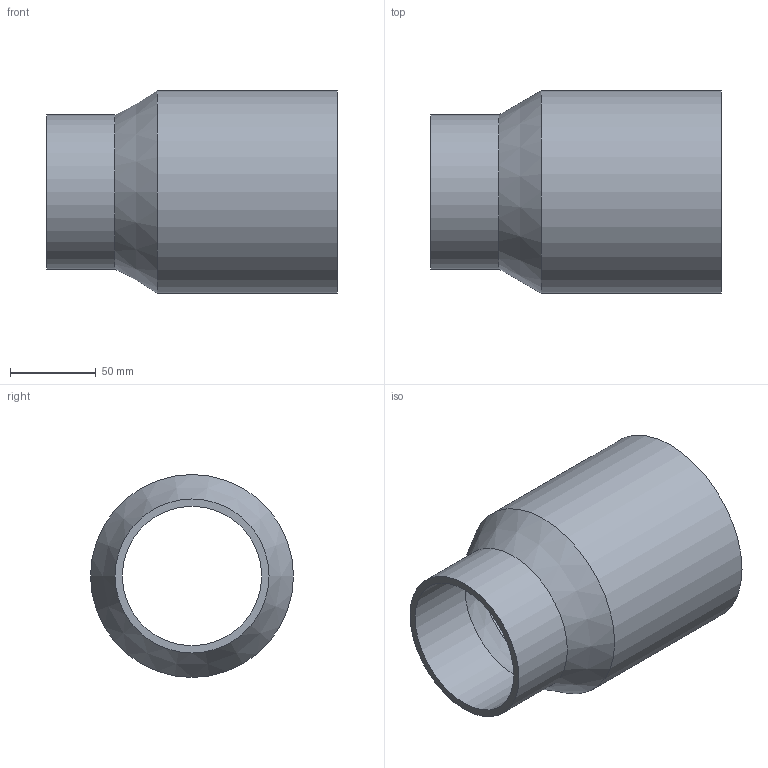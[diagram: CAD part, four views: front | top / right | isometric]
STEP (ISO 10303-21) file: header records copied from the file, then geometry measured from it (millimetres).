
FILE_DESCRIPTION(/* description */ (''),/* implementation_level */ '2;1');
FILE_NAME(/* name */ 'Z:\Geberit\Export\NewStep\366550.stp',/* time_stamp */ '2014-04-02T07:54:15+02:00',/* author */ ('nelson'),/* organization */ (''),/* preprocessor_version */ 'ST-DEVELOPER v15.2',/* originating_system */ 'Autodesk Inventor 2014',/* authorisation */ '');
FILE_SCHEMA (('AUTOMOTIVE_DESIGN { 1 0 10303 214 3 1 1 }'));
Length unit declared in the file: millimetre
Products named in the file (1): 366550
Bounding box: 170 x 118.6 x 118.6 mm (x, y, z)
Volume: 247205.2 mm3; surface area: 117680.9 mm2
Topology: 1 solids, 1 shells, 8 faces, 14 edges, 8 vertices
Faces by surface type: cylinder 4, cone 2, plane 2
Full cylindrical faces by diameter (mm): 81.4 x1, 90 x1, 110 x1, 118.6 x1
Entity records: 189 total; most frequent: DIRECTION 34, CARTESIAN_POINT 25, AXIS2_PLACEMENT_3D 17, EDGE_LOOP 16, ORIENTED_EDGE 16, FACE_BOUND 9, CIRCLE 8, VERTEX_POINT 8
